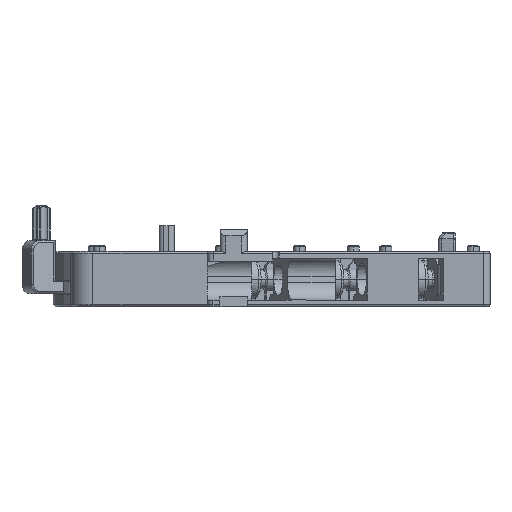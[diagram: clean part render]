
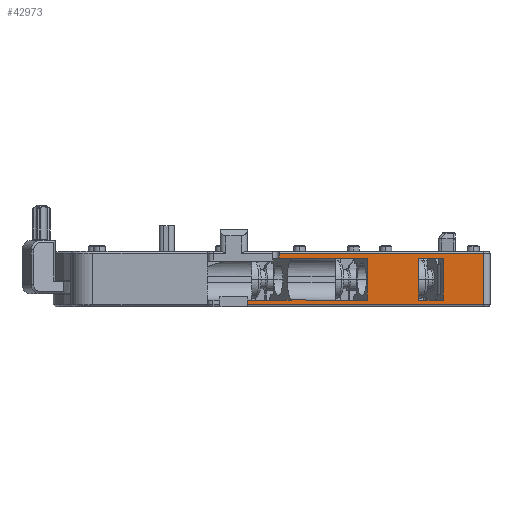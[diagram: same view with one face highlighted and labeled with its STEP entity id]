
A CAD part, left-side view. The second image highlights one B-rep face of the part: STEP entity #42973.
In plain terms, the highlighted planar face has unit normal (-1, 0, 0).
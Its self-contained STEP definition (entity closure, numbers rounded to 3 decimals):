
#1596=DIRECTION('',(0.,0.,1.));
#1597=VECTOR('',#1596,8.05);
#1598=CARTESIAN_POINT('',(-46.1,-50.5,-4.));
#1599=LINE('',#1598,#1597);
#1614=DIRECTION('',(0.,0.,1.));
#1615=VECTOR('',#1614,0.123);
#1616=CARTESIAN_POINT('',(-46.1,-20.189,3.177));
#1617=LINE('',#1616,#1615);
#1618=DIRECTION('',(0.,0.,1.));
#1619=VECTOR('',#1618,0.75);
#1620=CARTESIAN_POINT('',(-46.1,-18.3,3.3));
#1621=LINE('',#1620,#1619);
#1622=DIRECTION('',(0.,1.,0.));
#1623=VECTOR('',#1622,37.2);
#1624=CARTESIAN_POINT('',(-46.1,-50.5,-4.));
#1625=LINE('',#1624,#1623);
#1626=DIRECTION('',(0.,0.,1.));
#1627=VECTOR('',#1626,0.7);
#1628=CARTESIAN_POINT('',(-46.1,-13.3,-4.));
#1629=LINE('',#1628,#1627);
#1630=CARTESIAN_POINT('',(-46.1,-23.168,-3.3));
#1631=CARTESIAN_POINT('',(-46.1,-22.173,-3.3));
#1632=CARTESIAN_POINT('',(-46.1,-21.18,-3.261));
#1633=CARTESIAN_POINT('',(-46.1,-20.189,-3.177));
#1635=DIRECTION('',(0.,1.,0.));
#1636=VECTOR('',#1635,3.799);
#1637=CARTESIAN_POINT('',(-46.1,-44.116,-3.3));
#1638=LINE('',#1637,#1636);
#1651=DIRECTION('',(0.,0.,-1.));
#1652=VECTOR('',#1651,6.6);
#1653=CARTESIAN_POINT('',(-46.1,-32.152,3.3));
#1654=LINE('',#1653,#1652);
#2026=DIRECTION('',(0.,0.,1.));
#2027=VECTOR('',#2026,0.123);
#2028=CARTESIAN_POINT('',(-46.1,-20.189,-3.3));
#2029=LINE('',#2028,#2027);
#4758=DIRECTION('',(0.,1.,0.));
#4759=VECTOR('',#4758,1.889);
#4760=CARTESIAN_POINT('',(-46.1,-20.189,3.3));
#4761=LINE('',#4760,#4759);
#12973=DIRECTION('',(0.,1.,0.));
#12974=VECTOR('',#12973,6.889);
#12975=CARTESIAN_POINT('',(-46.1,-20.189,-3.3));
#12976=LINE('',#12975,#12974);
#17770=DIRECTION('',(0.,1.,0.));
#17771=VECTOR('',#17770,32.2);
#17772=CARTESIAN_POINT('',(-46.1,-50.5,4.05));
#17773=LINE('',#17772,#17771);
#27207=DIRECTION('',(0.,0.,-1.));
#27208=VECTOR('',#27207,6.6);
#27209=CARTESIAN_POINT('',(-46.1,-44.116,3.3));
#27210=LINE('',#27209,#27208);
#27428=DIRECTION('',(0.,0.,1.));
#27429=VECTOR('',#27428,6.6);
#27430=CARTESIAN_POINT('',(-46.1,-40.317,-3.3));
#27431=LINE('',#27430,#27429);
#27440=DIRECTION('',(0.,1.,0.));
#27441=VECTOR('',#27440,3.799);
#27442=CARTESIAN_POINT('',(-46.1,-44.116,3.3));
#27443=LINE('',#27442,#27441);
#31634=CARTESIAN_POINT('',(-46.1,-20.189,3.177));
#31635=CARTESIAN_POINT('',(-46.1,-21.18,3.261));
#31636=CARTESIAN_POINT('',(-46.1,-22.173,3.3));
#31637=CARTESIAN_POINT('',(-46.1,-23.168,3.3));
#31643=DIRECTION('',(0.,1.,0.));
#31644=VECTOR('',#31643,8.985);
#31645=CARTESIAN_POINT('',(-46.1,-32.152,3.3));
#31646=LINE('',#31645,#31644);
#31676=DIRECTION('',(0.,1.,0.));
#31677=VECTOR('',#31676,8.985);
#31678=CARTESIAN_POINT('',(-46.1,-32.152,-3.3));
#31679=LINE('',#31678,#31677);
#32717=CARTESIAN_POINT('',(-46.1,-44.116,-3.3));
#32718=CARTESIAN_POINT('',(-46.1,-40.317,-3.3));
#32719=VERTEX_POINT('',#32717);
#32720=VERTEX_POINT('',#32718);
#32881=CARTESIAN_POINT('',(-46.1,-32.152,-3.3));
#32883=VERTEX_POINT('',#32881);
#33674=CARTESIAN_POINT('',(-46.1,-13.3,-4.));
#33676=VERTEX_POINT('',#33674);
#33677=CARTESIAN_POINT('',(-46.1,-50.5,-4.));
#33678=VERTEX_POINT('',#33677);
#33713=CARTESIAN_POINT('',(-46.1,-13.3,-3.3));
#33714=VERTEX_POINT('',#33713);
#34689=CARTESIAN_POINT('',(-46.1,-23.168,-3.3));
#34691=VERTEX_POINT('',#34689);
#34703=CARTESIAN_POINT('',(-46.1,-20.189,-3.3));
#34704=VERTEX_POINT('',#34703);
#34705=CARTESIAN_POINT('',(-46.1,-20.189,-3.177));
#34706=VERTEX_POINT('',#34705);
#37818=CARTESIAN_POINT('',(-46.1,-32.152,3.3));
#37819=VERTEX_POINT('',#37818);
#37878=CARTESIAN_POINT('',(-46.1,-44.116,3.3));
#37879=CARTESIAN_POINT('',(-46.1,-40.317,3.3));
#37880=VERTEX_POINT('',#37878);
#37881=VERTEX_POINT('',#37879);
#38888=CARTESIAN_POINT('',(-46.1,-50.5,4.05));
#38889=VERTEX_POINT('',#38888);
#39684=CARTESIAN_POINT('',(-46.1,-23.168,3.3));
#39685=VERTEX_POINT('',#39684);
#39686=CARTESIAN_POINT('',(-46.1,-20.189,3.177));
#39687=CARTESIAN_POINT('',(-46.1,-20.189,3.3));
#39688=VERTEX_POINT('',#39686);
#39689=VERTEX_POINT('',#39687);
#40444=CARTESIAN_POINT('',(-46.1,-18.3,3.3));
#40445=VERTEX_POINT('',#40444);
#40446=CARTESIAN_POINT('',(-46.1,-18.3,4.05));
#40447=VERTEX_POINT('',#40446);
#42929=CARTESIAN_POINT('',(-46.1,14.5,-4.3));
#42930=DIRECTION('',(-1.,0.,0.));
#42931=DIRECTION('',(0.,-1.,0.));
#42932=AXIS2_PLACEMENT_3D('',#42929,#42930,#42931);
#42933=PLANE('',#42932);
#42935=ORIENTED_EDGE('',*,*,#42934,.F.);
#42937=ORIENTED_EDGE('',*,*,#42936,.T.);
#42939=ORIENTED_EDGE('',*,*,#42938,.F.);
#42941=ORIENTED_EDGE('',*,*,#42940,.T.);
#42943=ORIENTED_EDGE('',*,*,#42942,.T.);
#42945=ORIENTED_EDGE('',*,*,#42944,.T.);
#42947=ORIENTED_EDGE('',*,*,#42946,.F.);
#42948=ORIENTED_EDGE('',*,*,#42919,.F.);
#42950=ORIENTED_EDGE('',*,*,#42949,.T.);
#42952=ORIENTED_EDGE('',*,*,#42951,.T.);
#42954=ORIENTED_EDGE('',*,*,#42953,.F.);
#42956=ORIENTED_EDGE('',*,*,#42955,.T.);
#42958=ORIENTED_EDGE('',*,*,#42957,.F.);
#42960=ORIENTED_EDGE('',*,*,#42959,.F.);
#42961=EDGE_LOOP('',(#42935,#42937,#42939,#42941,#42943,#42945,#42947,#42948,
#42950,#42952,#42954,#42956,#42958,#42960));
#42962=FACE_OUTER_BOUND('',#42961,.F.);
#42964=ORIENTED_EDGE('',*,*,#42963,.F.);
#42966=ORIENTED_EDGE('',*,*,#42965,.T.);
#42968=ORIENTED_EDGE('',*,*,#42967,.F.);
#42970=ORIENTED_EDGE('',*,*,#42969,.F.);
#42971=EDGE_LOOP('',(#42964,#42966,#42968,#42970));
#42972=FACE_BOUND('',#42971,.F.);
#42973=ADVANCED_FACE('',(#42962,#42972),#42933,.T.);
#1634=B_SPLINE_CURVE_WITH_KNOTS('',3,(#1630,#1631,#1632,#1633),.UNSPECIFIED.,
.F.,.F.,(4,4),(0.,1.),.UNSPECIFIED.);
#31638=B_SPLINE_CURVE_WITH_KNOTS('',3,(#31634,#31635,#31636,#31637),
.UNSPECIFIED.,.F.,.F.,(4,4),(0.,1.),.UNSPECIFIED.);
#42919=EDGE_CURVE('',#33678,#38889,#1599,.T.);
#42934=EDGE_CURVE('',#37819,#32883,#1654,.T.);
#42936=EDGE_CURVE('',#37819,#39685,#31646,.T.);
#42938=EDGE_CURVE('',#39688,#39685,#31638,.T.);
#42940=EDGE_CURVE('',#39688,#39689,#1617,.T.);
#42942=EDGE_CURVE('',#39689,#40445,#4761,.T.);
#42944=EDGE_CURVE('',#40445,#40447,#1621,.T.);
#42946=EDGE_CURVE('',#38889,#40447,#17773,.T.);
#42949=EDGE_CURVE('',#33678,#33676,#1625,.T.);
#42951=EDGE_CURVE('',#33676,#33714,#1629,.T.);
#42953=EDGE_CURVE('',#34704,#33714,#12976,.T.);
#42955=EDGE_CURVE('',#34704,#34706,#2029,.T.);
#42957=EDGE_CURVE('',#34691,#34706,#1634,.T.);
#42959=EDGE_CURVE('',#32883,#34691,#31679,.T.);
#42963=EDGE_CURVE('',#37880,#32719,#27210,.T.);
#42965=EDGE_CURVE('',#37880,#37881,#27443,.T.);
#42967=EDGE_CURVE('',#32720,#37881,#27431,.T.);
#42969=EDGE_CURVE('',#32719,#32720,#1638,.T.);
